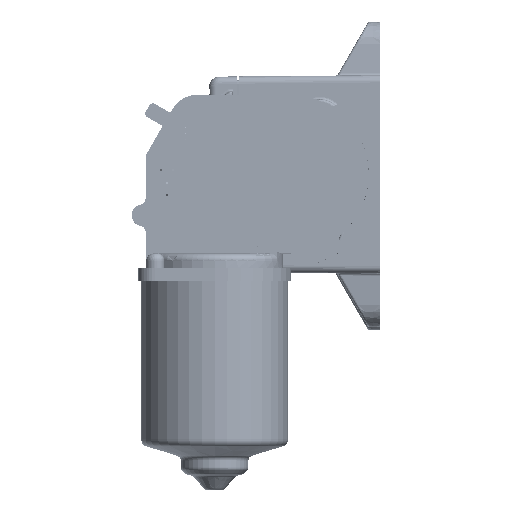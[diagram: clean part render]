
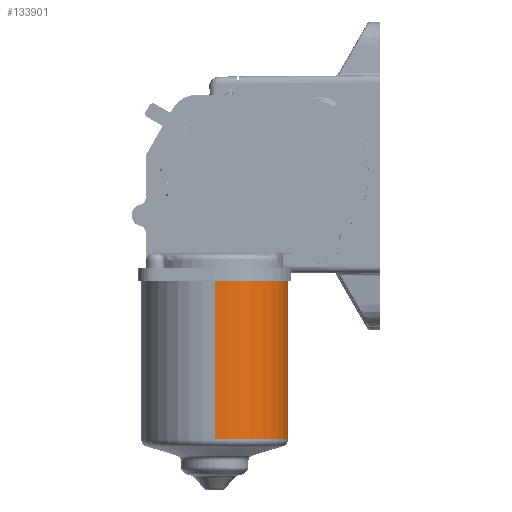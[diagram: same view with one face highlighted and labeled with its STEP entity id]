
A CAD part, top view. The second image highlights one B-rep face of the part: STEP entity #133901.
In plain terms, the highlighted cylindrical face has radius 30.3 mm (diameter 60.6 mm), a partial arc.
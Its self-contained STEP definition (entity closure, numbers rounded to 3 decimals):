
#145 = VECTOR ( 'NONE', #67399, 1000. ) ;
#3987 = VERTEX_POINT ( 'NONE', #157827 ) ;
#4962 = CIRCLE ( 'NONE', #161138, 30.3 ) ;
#7732 = DIRECTION ( 'NONE',  ( 0., 0., 1. ) ) ;
#14421 = EDGE_CURVE ( 'NONE', #147554, #47652, #69991, .T. ) ;
#15543 = DIRECTION ( 'NONE',  ( 0., 1., 0. ) ) ;
#17279 = CARTESIAN_POINT ( 'NONE',  ( -23.859, 3.635, 38.545 ) ) ;
#23300 = ORIENTED_EDGE ( 'NONE', *, *, #92571, .T. ) ;
#37380 = ORIENTED_EDGE ( 'NONE', *, *, #113014, .T. ) ;
#43538 = DIRECTION ( 'NONE',  ( 0., 0., 1. ) ) ;
#44632 = CYLINDRICAL_SURFACE ( 'NONE', #91953, 30.3 ) ;
#46791 = EDGE_LOOP ( 'NONE', ( #23300, #37380, #102481, #148715 ) ) ;
#47652 = VERTEX_POINT ( 'NONE', #83665 ) ;
#51721 = EDGE_CURVE ( 'NONE', #47652, #3987, #60035, .T. ) ;
#60035 = CIRCLE ( 'NONE', #89339, 30.3 ) ;
#60746 = DIRECTION ( 'NONE',  ( 0., 1., 0. ) ) ;
#67399 = DIRECTION ( 'NONE',  ( 0., 1., 0. ) ) ;
#69263 = DIRECTION ( 'NONE',  ( 0., 1., 0. ) ) ;
#69991 = LINE ( 'NONE', #106937, #104711 ) ;
#83665 = CARTESIAN_POINT ( 'NONE',  ( -23.859, 3.635, 68.845 ) ) ;
#84020 = CARTESIAN_POINT ( 'NONE',  ( -23.859, -61.947, 68.845 ) ) ;
#85892 = DIRECTION ( 'NONE',  ( 0., 1., 0. ) ) ;
#89339 = AXIS2_PLACEMENT_3D ( 'NONE', #164186, #85892, #7732 ) ;
#91953 = AXIS2_PLACEMENT_3D ( 'NONE', #17279, #69263, #43538 ) ;
#92571 = EDGE_CURVE ( 'NONE', #147554, #105140, #4962, .T. ) ;
#102481 = ORIENTED_EDGE ( 'NONE', *, *, #51721, .F. ) ;
#104711 = VECTOR ( 'NONE', #15543, 1000. ) ;
#105140 = VERTEX_POINT ( 'NONE', #149822 ) ;
#106937 = CARTESIAN_POINT ( 'NONE',  ( -23.859, 3.635, 68.845 ) ) ;
#113014 = EDGE_CURVE ( 'NONE', #105140, #3987, #143177, .T. ) ;
#132507 = CARTESIAN_POINT ( 'NONE',  ( -23.859, 3.635, 8.245 ) ) ;
#133901 = ADVANCED_FACE ( 'NONE', ( #148905 ), #44632, .T. ) ;
#139062 = CARTESIAN_POINT ( 'NONE',  ( -23.859, -61.947, 38.545 ) ) ;
#143177 = LINE ( 'NONE', #132507, #145 ) ;
#147554 = VERTEX_POINT ( 'NONE', #84020 ) ;
#148715 = ORIENTED_EDGE ( 'NONE', *, *, #14421, .F. ) ;
#148905 = FACE_OUTER_BOUND ( 'NONE', #46791, .T. ) ;
#149822 = CARTESIAN_POINT ( 'NONE',  ( -23.859, -61.947, 8.245 ) ) ;
#152205 = DIRECTION ( 'NONE',  ( 0., 0., -1. ) ) ;
#157827 = CARTESIAN_POINT ( 'NONE',  ( -23.859, 3.635, 8.245 ) ) ;
#161138 = AXIS2_PLACEMENT_3D ( 'NONE', #139062, #60746, #152205 ) ;
#164186 = CARTESIAN_POINT ( 'NONE',  ( -23.859, 3.635, 38.545 ) ) ;
